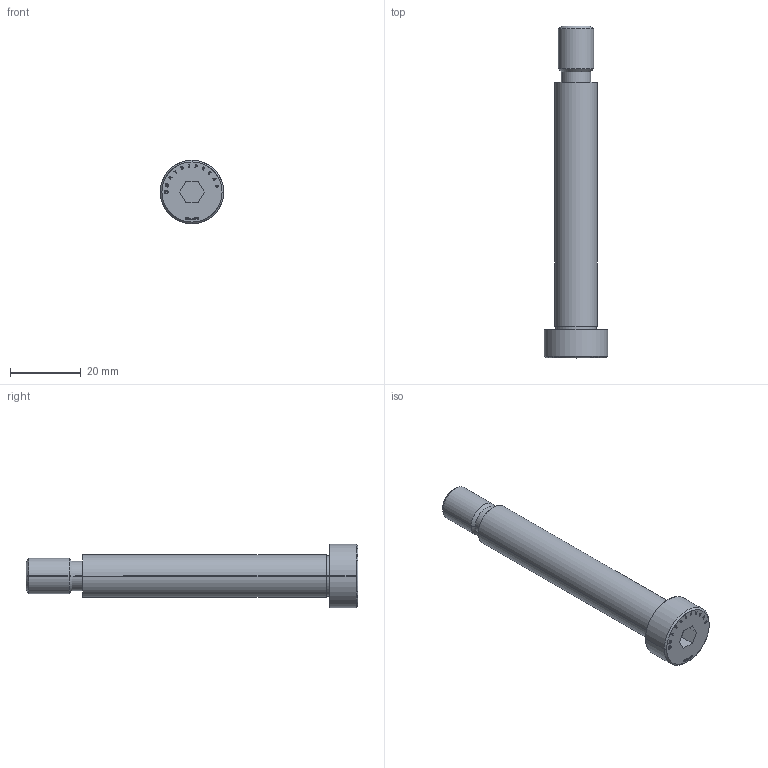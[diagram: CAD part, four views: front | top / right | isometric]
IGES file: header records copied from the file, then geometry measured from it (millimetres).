
Start section: SolidWorks IGES file using analytic representation for surfaces
Global section: file name: D:\Cleonir_arquivos\MT_15_07\Parafusos de Corpo Retificado\PRT12070.igs; native system: SolidWorks 2013; preprocessor: SolidWorks 2013; author: Cleonir; date: 130730.134433; units: millimetre
Bounding box: 18 x 94 x 18 mm (x, y, z)
Surface area: 4189.1 mm2 (no closed solid volume)
Topology: 0 solids, 0 shells, 289 faces, 2779 edges, 2779 vertices
Faces by surface type: bspline 262, revolution 27
